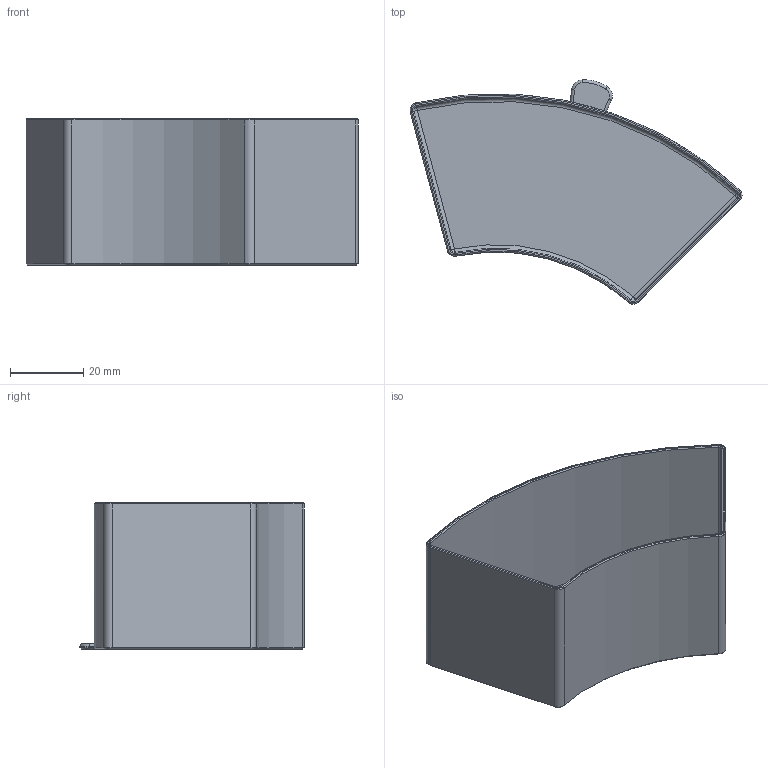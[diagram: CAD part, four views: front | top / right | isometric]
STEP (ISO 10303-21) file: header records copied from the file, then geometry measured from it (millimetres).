
FILE_DESCRIPTION(('FreeCAD Model'),'2;1');
FILE_NAME( 'D:/GitRepo/CAD-Design/FreeCAD/Spool_Organizer/Box_60.V03.step', '2017-11-26T14:57:59',('Author'),(''), 'Open CASCADE STEP processor 7.1','FreeCAD','Unknown');
FILE_SCHEMA(('AUTOMOTIVE_DESIGN { 1 0 10303 214 1 1 1 1 }'));
Length unit declared in the file: millimetre
Products named in the file (1): Box_B.07.Fusion
Bounding box: 90.35 x 61.06 x 39.8 mm (x, y, z)
Volume: 12447.8 mm3; surface area: 24825 mm2
Topology: 1 solids, 1 shells, 70 faces, 157 edges, 86 vertices
Faces by surface type: cylinder 23, torus 17, plane 16, cone 10, sphere 4
Entity records: 5048 total; most frequent: CARTESIAN_POINT 1980, DIRECTION 584, ORIENTED_EDGE 306, PCURVE 306, DEFINITIONAL_REPRESENTATION 306, LINE 242, VECTOR 242, AXIS2_PLACEMENT_3D 162
